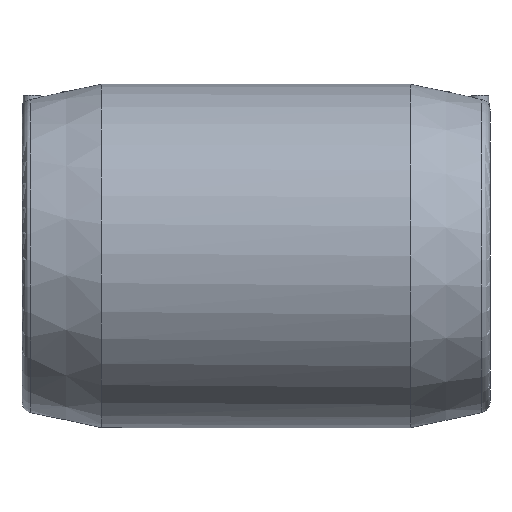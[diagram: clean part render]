
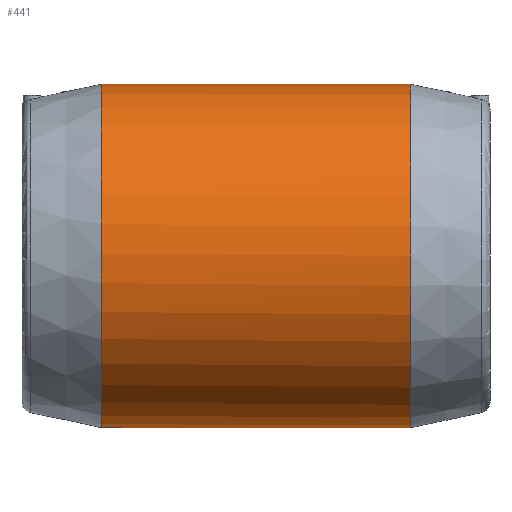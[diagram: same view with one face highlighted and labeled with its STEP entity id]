
A CAD part, front view. The second image highlights one B-rep face of the part: STEP entity #441.
In plain terms, the highlighted cylindrical face has radius 205.5 mm (diameter 411 mm), a full revolution.
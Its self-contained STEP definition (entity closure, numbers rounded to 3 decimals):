
#50=B_SPLINE_CURVE_WITH_KNOTS('',3,(#897,#898,#899,#900,#901,#902,#903,
#904,#905,#906,#907,#908,#909,#910,#911,#912,#913,#914,#915,#916,#917,#918,
#919,#920,#921,#922,#923,#924,#925,#926,#927,#928,#929,#930,#931,#932,#933,
#934,#935,#936,#937,#938,#939,#940,#941,#942,#943,#944,#945,#946,#947,#948,
#949,#950,#951,#952,#953,#954,#955,#956,#957,#958,#959,#960,#961,#962,#963,
#964,#965,#966,#967,#968,#969,#970,#971,#972,#973,#974,#975,#976,#977,#978,
#979,#980,#981,#982,#983,#984,#985,#986),.UNSPECIFIED.,.T.,.F.,(1,1,1,1,
1,1,1,1,1,1,1,1,1,1,1,1,1,1,1,1,1,1,1,1,1,1,1,1,1,1,1,1,1,1,1,1,1,1,1,1,
1,1,1,1,1,1,1,1,1,1,1,1,1,1,1,1,1,1,1,1,1,1,1,1,1,1,1,1,1,1,1,1,1,1,1,1,
1,1,1,1,1,1,1,1,1,1,1,1,1,1,1,1,1,1),(-0.027,-0.018,
-0.009,0.,0.018,0.027,
0.036,0.054,0.072,0.09,
0.108,0.117,0.126,0.144,
0.162,0.18,0.189,0.198,
0.217,0.235,0.244,0.253,
0.271,0.28,0.289,0.307,
0.316,0.325,0.343,0.352,
0.361,0.37,0.379,0.397,
0.415,0.424,0.433,0.451,
0.469,0.487,0.496,0.505,
0.523,0.541,0.559,0.577,
0.586,0.595,0.605,0.614,
0.632,0.641,0.65,0.668,
0.686,0.704,0.722,0.74,
0.749,0.758,0.776,0.794,
0.812,0.821,0.83,0.839,
0.848,0.857,0.866,0.884,
0.893,0.902,0.92,0.929,
0.938,0.956,0.974,0.992,
1.002,1.011,1.029,1.047,1.065,
1.074,1.083,1.101,1.119,1.128,
1.137,1.146,1.155,1.173,1.182,
1.191),.UNSPECIFIED.);
#62=CYLINDRICAL_SURFACE('',#506,205.5);
#109=ORIENTED_EDGE('',*,*,#186,.T.);
#110=ORIENTED_EDGE('',*,*,#174,.F.);
#111=ORIENTED_EDGE('',*,*,#172,.T.);
#172=EDGE_CURVE('',#217,#217,#255,.T.);
#174=EDGE_CURVE('',#219,#219,#256,.T.);
#186=EDGE_CURVE('',#230,#230,#50,.T.);
#217=VERTEX_POINT('',#741);
#219=VERTEX_POINT('',#756);
#230=VERTEX_POINT('',#987);
#255=CIRCLE('',#493,205.5);
#256=CIRCLE('',#495,205.5);
#306=EDGE_LOOP('',(#109));
#307=EDGE_LOOP('',(#110));
#308=EDGE_LOOP('',(#111));
#374=FACE_BOUND('',#306,.T.);
#375=FACE_BOUND('',#307,.T.);
#376=FACE_BOUND('',#308,.T.);
#441=ADVANCED_FACE('',(#374,#375,#376),#62,.T.);
#493=AXIS2_PLACEMENT_3D('',#740,#575,#576);
#495=AXIS2_PLACEMENT_3D('',#755,#579,#580);
#506=AXIS2_PLACEMENT_3D('',#896,#603,#604);
#575=DIRECTION('',(-1.,0.,0.));
#576=DIRECTION('',(0.,0.,1.));
#579=DIRECTION('',(-1.,0.,0.));
#580=DIRECTION('',(0.,0.,1.));
#603=DIRECTION('',(-1.,0.,0.));
#604=DIRECTION('',(0.,0.,1.));
#740=CARTESIAN_POINT('',(185.,0.,0.));
#741=CARTESIAN_POINT('',(185.,0.,205.5));
#755=CARTESIAN_POINT('',(-185.,0.,0.));
#756=CARTESIAN_POINT('',(-185.,0.,205.5));
#896=CARTESIAN_POINT('',(-60.,0.,0.));
#897=CARTESIAN_POINT('',(174.831,205.367,-9.044));
#898=CARTESIAN_POINT('',(175.169,205.633,3.017));
#899=CARTESIAN_POINT('',(174.494,205.101,15.055));
#900=CARTESIAN_POINT('',(172.837,203.796,26.9));
#901=CARTESIAN_POINT('',(170.566,202.015,38.462));
#902=CARTESIAN_POINT('',(166.621,198.935,52.467));
#903=CARTESIAN_POINT('',(160.143,193.936,68.629));
#904=CARTESIAN_POINT('',(152.289,187.976,83.529));
#905=CARTESIAN_POINT('',(144.659,182.311,95.065));
#906=CARTESIAN_POINT('',(137.935,177.428,103.767));
#907=CARTESIAN_POINT('',(130.916,172.414,111.997));
#908=CARTESIAN_POINT('',(121.564,165.914,121.502));
#909=CARTESIAN_POINT('',(109.444,157.884,131.742));
#910=CARTESIAN_POINT('',(98.538,151.103,139.373));
#911=CARTESIAN_POINT('',(89.335,145.744,144.912));
#912=CARTESIAN_POINT('',(79.909,140.528,150.015));
#913=CARTESIAN_POINT('',(67.626,134.315,155.625));
#914=CARTESIAN_POINT('',(54.597,128.756,160.199));
#915=CARTESIAN_POINT('',(43.576,124.889,163.208));
#916=CARTESIAN_POINT('',(32.352,121.572,165.702));
#917=CARTESIAN_POINT('',(20.817,119.174,167.419));
#918=CARTESIAN_POINT('',(8.828,117.917,168.303));
#919=CARTESIAN_POINT('',(-3.137,117.511,168.586));
#920=CARTESIAN_POINT('',(-14.96,118.362,167.996));
#921=CARTESIAN_POINT('',(-26.734,120.403,166.539));
#922=CARTESIAN_POINT('',(-38.262,123.146,164.533));
#923=CARTESIAN_POINT('',(-49.256,126.753,161.79));
#924=CARTESIAN_POINT('',(-59.852,130.999,158.353));
#925=CARTESIAN_POINT('',(-67.624,134.463,155.427));
#926=CARTESIAN_POINT('',(-75.173,138.132,152.178));
#927=CARTESIAN_POINT('',(-84.869,143.195,147.469));
#928=CARTESIAN_POINT('',(-96.4,149.776,140.865));
#929=CARTESIAN_POINT('',(-107.235,156.51,133.29));
#930=CARTESIAN_POINT('',(-115.507,161.901,126.62));
#931=CARTESIAN_POINT('',(-123.543,167.287,119.502));
#932=CARTESIAN_POINT('',(-132.925,173.813,109.938));
#933=CARTESIAN_POINT('',(-143.094,181.15,97.409));
#934=CARTESIAN_POINT('',(-150.659,186.765,86.005));
#935=CARTESIAN_POINT('',(-156.121,190.884,76.257));
#936=CARTESIAN_POINT('',(-161.19,194.744,66.016));
#937=CARTESIAN_POINT('',(-166.535,198.868,52.695));
#938=CARTESIAN_POINT('',(-171.305,202.591,35.921));
#939=CARTESIAN_POINT('',(-174.314,204.958,18.161));
#940=CARTESIAN_POINT('',(-175.156,205.623,3.315));
#941=CARTESIAN_POINT('',(-174.855,205.385,-8.611));
#942=CARTESIAN_POINT('',(-174.124,204.809,-17.622));
#943=CARTESIAN_POINT('',(-172.906,203.85,-26.481));
#944=CARTESIAN_POINT('',(-170.672,202.097,-38.025));
#945=CARTESIAN_POINT('',(-167.551,199.66,-49.211));
#946=CARTESIAN_POINT('',(-163.584,196.592,-60.048));
#947=CARTESIAN_POINT('',(-159.046,193.105,-70.672));
#948=CARTESIAN_POINT('',(-152.521,188.151,-83.136));
#949=CARTESIAN_POINT('',(-143.435,181.399,-96.958));
#950=CARTESIAN_POINT('',(-133.089,173.928,-109.764));
#951=CARTESIAN_POINT('',(-121.831,166.095,-121.257));
#952=CARTESIAN_POINT('',(-111.692,159.37,-129.855));
#953=CARTESIAN_POINT('',(-103.114,153.949,-136.172));
#954=CARTESIAN_POINT('',(-94.19,148.514,-142.131));
#955=CARTESIAN_POINT('',(-82.58,141.888,-148.782));
#956=CARTESIAN_POINT('',(-67.854,134.421,-155.534));
#957=CARTESIAN_POINT('',(-54.797,128.834,-160.136));
#958=CARTESIAN_POINT('',(-43.771,124.953,-163.159));
#959=CARTESIAN_POINT('',(-35.365,122.456,-165.038));
#960=CARTESIAN_POINT('',(-26.775,120.413,-166.531));
#961=CARTESIAN_POINT('',(-18.003,118.885,-167.623));
#962=CARTESIAN_POINT('',(-8.991,117.929,-168.295));
#963=CARTESIAN_POINT('',(2.95,117.507,-168.589));
#964=CARTESIAN_POINT('',(14.79,118.34,-168.011));
#965=CARTESIAN_POINT('',(26.606,120.376,-166.558));
#966=CARTESIAN_POINT('',(38.123,123.106,-164.563));
#967=CARTESIAN_POINT('',(49.14,126.71,-161.823));
#968=CARTESIAN_POINT('',(59.758,130.959,-158.387));
#969=CARTESIAN_POINT('',(70.162,135.591,-154.474));
#970=CARTESIAN_POINT('',(82.496,141.843,-148.825));
#971=CARTESIAN_POINT('',(96.346,149.744,-140.899));
#972=CARTESIAN_POINT('',(107.204,156.49,-133.314));
#973=CARTESIAN_POINT('',(115.502,161.898,-126.625));
#974=CARTESIAN_POINT('',(123.551,167.292,-119.495));
#975=CARTESIAN_POINT('',(132.916,173.806,-109.948));
#976=CARTESIAN_POINT('',(143.101,181.156,-97.4));
#977=CARTESIAN_POINT('',(150.682,186.783,-85.97));
#978=CARTESIAN_POINT('',(156.17,190.921,-76.166));
#979=CARTESIAN_POINT('',(161.236,194.779,-65.911));
#980=CARTESIAN_POINT('',(166.562,198.889,-52.618));
#981=CARTESIAN_POINT('',(170.538,201.992,-38.601));
#982=CARTESIAN_POINT('',(172.842,203.801,-26.875));
#983=CARTESIAN_POINT('',(174.082,204.776,-17.991));
#984=CARTESIAN_POINT('',(174.831,205.367,-9.044));
#985=CARTESIAN_POINT('',(175.169,205.633,3.017));
#986=CARTESIAN_POINT('',(174.494,205.101,15.055));
#987=CARTESIAN_POINT('',(175.,205.5,0.));
